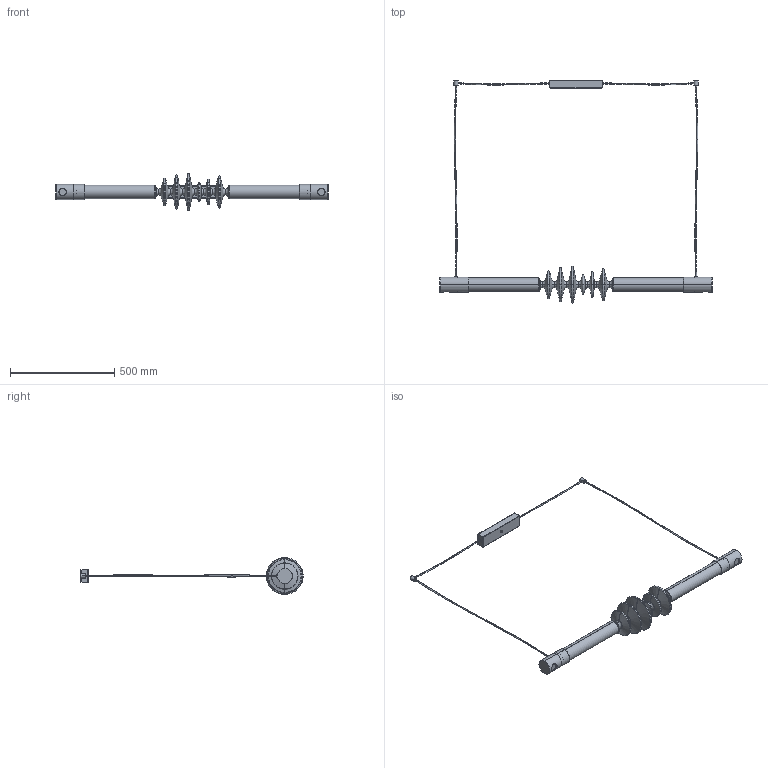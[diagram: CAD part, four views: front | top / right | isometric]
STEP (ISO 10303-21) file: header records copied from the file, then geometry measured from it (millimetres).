
FILE_DESCRIPTION (( 'STEP AP203' ), '1' );
FILE_NAME ('ATP-X21-S400-R02 - Architetti V2.STEP', '2026-04-30T09:03:23', ( '' ), ( '' ), 'SwSTEP 2.0', 'SolidWorks 2025', '' );
FILE_SCHEMA (( 'CONFIG_CONTROL_DESIGN' ));
Length unit declared in the file: millimetre
Products named in the file (16): ATC-X21-S400-R02 - Architetti; ATA-X21-S401-R00 - Architetti; ATA-X21-S403-R00 - Architetti; Vite a Testa Svasata Piana Cava Esagonale UNI-5933_VITE M3X8 TSPCE UNI-5933; Viti a Testa Bombata e Cava Esagonale ISO-7380_VITE M3X12 TBCE ISO-7380 ; ATC-X21-S490-R00; ATC-X21-S407-R01 - Architetti; ATP-X21-S400-R02 - Architetti V2; ATC-X21-S415-R00; Grano con Cava Esagonale UNI-5923_GRANO M4X6 ESTREMITA'' PIANA UNI-5923; ATC-X21-S411-R00 - Architetti_Default<A macchina>; Nipplo Cieco Steab 5016xx; ATA-X21-S400-R00 - Architetti_Sosp. Singola; Lamp. GU10 Ø35 - PAR11 35 Osram_LAMPADA GU10 50W 220V; ATC-X21-S414-R00 - Architetti; Nipplo Steab 5475xx_NIPPLO M10x1 H.7 TRASP.
Assembly tree (30 placements, depth 4):
  ATP-X21-S400-R02 - Architetti V2
    ATA-X21-S401-R00 - Architetti
      Lamp. GU10 Ø35 - PAR11 35 Osram_LAMPADA GU10 50W 220V  x4
      Vite a Testa Svasata Piana Cava Esagonale UNI-5933_VITE M3X8 TSPCE UNI-5933  x4
      Nipplo Steab 5475xx_NIPPLO M10x1 H.7 TRASP.  x2
      Grano con Cava Esagonale UNI-5923_GRANO M4X6 ESTREMITA'' PIANA UNI-5923  x2
      ATC-X21-S490-R00  x2
      ATA-X21-S400-R00 - Architetti_Sosp. Singola
        Viti a Testa Bombata e Cava Esagonale ISO-7380_VITE M3X12 TBCE ISO-7380   x2
        Nipplo Steab 5475xx_NIPPLO M10x1 H.7 TRASP.  x2
        Nipplo Cieco Steab 5016xx
        ATC-X21-S414-R00 - Architetti
      ATC-X21-S407-R01 - Architetti  x2
      ATC-X21-S400-R02 - Architetti  x2
    ATA-X21-S403-R00 - Architetti
      ATC-X21-S411-R00 - Architetti_Default<A macchina>  x2
      ATC-X21-S415-R00
Bounding box: 1307 x 1068 x 177 mm (x, y, z)
Volume: 1702738.1 mm3; surface area: 1027208.3 mm2
Topology: 28 solids, 28 shells, 687 faces, 1443 edges, 856 vertices
Faces by surface type: cylinder 217, plane 200, cone 132, torus 120, bspline 18
Entity records: 16406 total; most frequent: CARTESIAN_POINT 5161, DIRECTION 2132, ORIENTED_EDGE 1748, AXIS2_PLACEMENT_3D 892, EDGE_CURVE 874, VERTEX_POINT 507, EDGE_LOOP 461, CIRCLE 455
